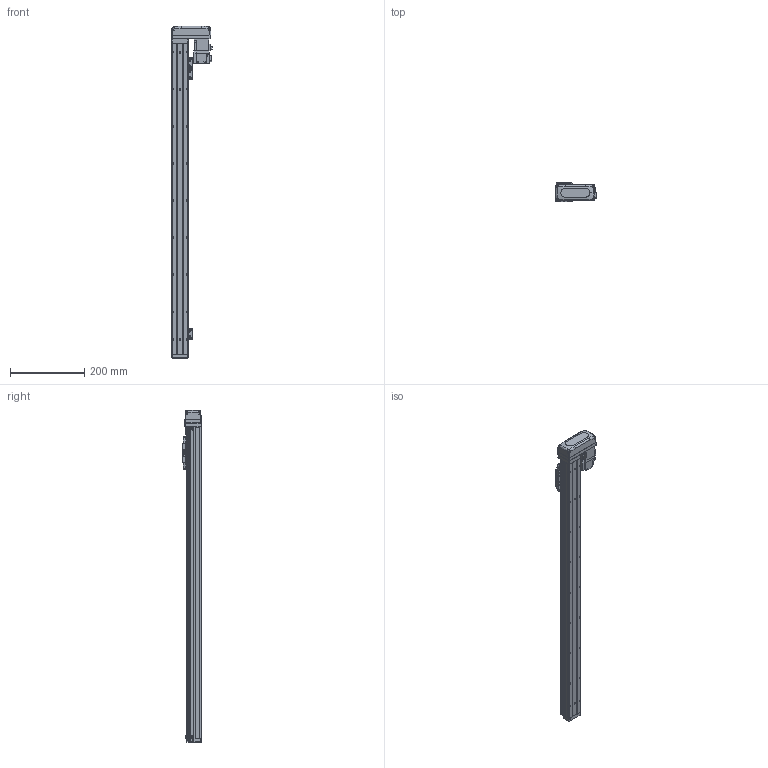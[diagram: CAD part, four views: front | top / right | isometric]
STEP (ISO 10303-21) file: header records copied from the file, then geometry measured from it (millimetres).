
FILE_DESCRIPTION (( 'STEP AP203' ), '1' );
FILE_NAME ('GTH4-700-BL-M05-C4.step', '2023-08-28T00:41:31', ( '微软用户' ), ( '微软中国' ), 'SwSTEP 2.0', 'SolidWorks 2020', '' );
FILE_SCHEMA (( 'CONFIG_CONTROL_DESIGN' ));
Length unit declared in the file: millimetre
Products named in the file (19): GBT 70.1-M3℅6; GBT 70.3-M3℅6; BTH40-001-50_BTH40-001-700; GBT96.1-2002 3×0.8; BTH40-027-1; BTH40-003; BTH40-022; BTH50-026; GBT70.1-2000 M3×16; BTH40-006; GBT 70.1-M2.5×6; GTH4-700-BL-M05-C4; BTH50-028; BTH-M3X5X6; BTH40-004; BTH50-023; BTH40-013; BTH50-024; HG-KR13
Assembly tree (47 placements, depth 2):
  GTH4-700-BL-M05-C4
    BTH40-001-50_BTH40-001-700
    BTH40-003
    BTH40-006
    BTH-M3X5X6  x8
    GBT70.1-2000 M3×16  x4
    BTH50-028  x2
    BTH50-023  x3
    BTH50-024  x3
    GBT 70.1-M3℅6  x6
    GBT96.1-2002 3×0.8  x6
    BTH40-022
    GBT 70.1-M2.5×6  x2
    BTH40-004
    BTH40-013
    HG-KR13
    GBT 70.3-M3℅6  x4
    BTH40-027-1
    BTH50-026
Bounding box: 108.8 x 52 x 896 mm (x, y, z)
Volume: 1572895.4 mm3; surface area: 266832.2 mm2
Topology: 49 solids, 49 shells, 1971 faces, 4643 edges, 2862 vertices
Faces by surface type: plane 1052, cylinder 503, cone 250, torus 128, bspline 34, sphere 4
Entity records: 39487 total; most frequent: CARTESIAN_POINT 7562, DIRECTION 6180, ORIENTED_EDGE 5932, EDGE_CURVE 2966, AXIS2_PLACEMENT_3D 2115, LINE 1950, VECTOR 1950, VERTEX_POINT 1849
